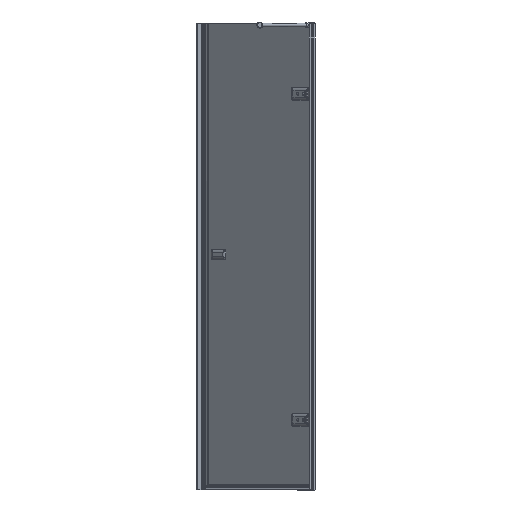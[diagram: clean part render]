
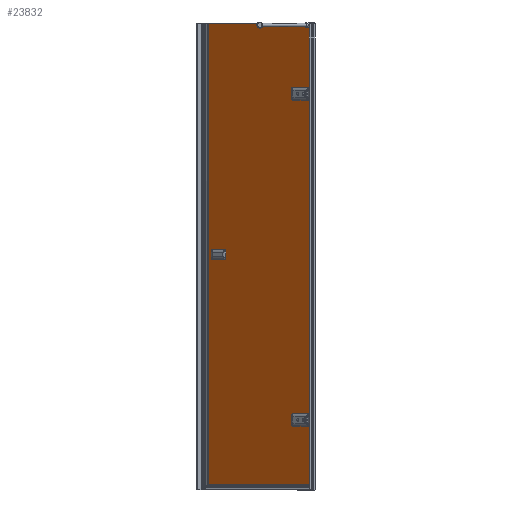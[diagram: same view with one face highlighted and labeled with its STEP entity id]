
A CAD part, left-side view. The second image highlights one B-rep face of the part: STEP entity #23832.
In plain terms, the highlighted planar face has unit normal (-0.707, 0.707, 0).
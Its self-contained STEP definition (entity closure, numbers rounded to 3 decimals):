
#341=FACE_BOUND($,#3484,.T.);
#342=FACE_BOUND($,#3485,.T.);
#343=FACE_BOUND($,#3486,.T.);
#3484=EDGE_LOOP($,(#20067));
#3485=EDGE_LOOP($,(#20068));
#3486=EDGE_LOOP($,(#20069,#20070,#20071,#20072,#20073,#20074,#20075,#20076,
#20077,#20078,#20079,#20080,#20081,#20082,#20083,#20084));
#4151=LINE($,#48981,#6217);
#4686=LINE($,#51399,#6752);
#4976=LINE($,#52678,#7042);
#4991=LINE($,#52735,#7057);
#5045=LINE($,#52944,#7111);
#5051=LINE($,#52963,#7117);
#5513=LINE($,#54102,#7579);
#5540=LINE($,#54189,#7606);
#5554=LINE($,#54226,#7620);
#5555=LINE($,#54230,#7621);
#5556=LINE($,#54233,#7622);
#5557=LINE($,#54237,#7623);
#6217=VECTOR($,#27973,261.);
#6752=VECTOR($,#29442,1362.);
#7042=VECTOR($,#30246,616.92);
#7057=VECTOR($,#30319,30.046);
#7111=VECTOR($,#30501,281.);
#7117=VECTOR($,#30529,30.046);
#7579=VECTOR($,#31541,616.92);
#7606=VECTOR($,#31616,1980.);
#7620=VECTOR($,#31668,30.046);
#7621=VECTOR($,#31671,18.);
#7622=VECTOR($,#31674,30.046);
#7623=VECTOR($,#31677,18.);
#8071=CIRCLE($,#24503,6.5);
#8263=CIRCLE($,#24985,6.5);
#8551=CIRCLE($,#25846,10.);
#8552=CIRCLE($,#25847,10.);
#8553=CIRCLE($,#25848,10.);
#8554=CIRCLE($,#25849,10.);
#9151=VERTEX_POINT($,#47887);
#9343=VERTEX_POINT($,#48978);
#9344=VERTEX_POINT($,#48980);
#9723=VERTEX_POINT($,#50492);
#9882=VERTEX_POINT($,#51397);
#9883=VERTEX_POINT($,#51398);
#10156=VERTEX_POINT($,#52675);
#10157=VERTEX_POINT($,#52677);
#10170=VERTEX_POINT($,#52734);
#10215=VERTEX_POINT($,#52943);
#10217=VERTEX_POINT($,#52962);
#10583=VERTEX_POINT($,#54101);
#10599=VERTEX_POINT($,#54225);
#10600=VERTEX_POINT($,#54227);
#10601=VERTEX_POINT($,#54229);
#10602=VERTEX_POINT($,#54232);
#10603=VERTEX_POINT($,#54234);
#10604=VERTEX_POINT($,#54236);
#11539=EDGE_CURVE($,#9151,#9151,#8071,.T.);
#11836=EDGE_CURVE($,#9344,#9343,#4151,.T.);
#12378=EDGE_CURVE($,#9723,#9723,#8263,.T.);
#12642=EDGE_CURVE($,#9882,#9883,#4686,.T.);
#13074=EDGE_CURVE($,#10156,#10157,#4976,.T.);
#13104=EDGE_CURVE($,#10170,#9882,#4991,.T.);
#13190=EDGE_CURVE($,#10215,#10157,#5045,.T.);
#13197=EDGE_CURVE($,#10217,#10215,#5051,.T.);
#13752=EDGE_CURVE($,#10583,#9344,#5513,.T.);
#13787=EDGE_CURVE($,#10583,#10156,#5540,.T.);
#13804=EDGE_CURVE($,#9883,#10599,#5554,.T.);
#13805=EDGE_CURVE($,#10600,#10599,#8551,.T.);
#13806=EDGE_CURVE($,#10600,#10601,#5555,.T.);
#13807=EDGE_CURVE($,#10217,#10601,#8552,.T.);
#13808=EDGE_CURVE($,#9343,#10602,#5556,.T.);
#13809=EDGE_CURVE($,#10603,#10602,#8553,.T.);
#13810=EDGE_CURVE($,#10603,#10604,#5557,.T.);
#13811=EDGE_CURVE($,#10170,#10604,#8554,.T.);
#20067=ORIENTED_EDGE($,*,*,#11539,.T.);
#20068=ORIENTED_EDGE($,*,*,#12378,.T.);
#20069=ORIENTED_EDGE($,*,*,#12642,.T.);
#20070=ORIENTED_EDGE($,*,*,#13804,.T.);
#20071=ORIENTED_EDGE($,*,*,#13805,.F.);
#20072=ORIENTED_EDGE($,*,*,#13806,.T.);
#20073=ORIENTED_EDGE($,*,*,#13807,.F.);
#20074=ORIENTED_EDGE($,*,*,#13197,.T.);
#20075=ORIENTED_EDGE($,*,*,#13190,.T.);
#20076=ORIENTED_EDGE($,*,*,#13074,.F.);
#20077=ORIENTED_EDGE($,*,*,#13787,.F.);
#20078=ORIENTED_EDGE($,*,*,#13752,.T.);
#20079=ORIENTED_EDGE($,*,*,#11836,.T.);
#20080=ORIENTED_EDGE($,*,*,#13808,.T.);
#20081=ORIENTED_EDGE($,*,*,#13809,.F.);
#20082=ORIENTED_EDGE($,*,*,#13810,.T.);
#20083=ORIENTED_EDGE($,*,*,#13811,.F.);
#20084=ORIENTED_EDGE($,*,*,#13104,.T.);
#21532=PLANE($,#25845);
#23832=ADVANCED_FACE($,(#341,#342,#343),#21532,.T.);
#24503=AXIS2_PLACEMENT_3D($,#47888,#27409,#27410);
#24985=AXIS2_PLACEMENT_3D($,#50493,#28917,#28918);
#25845=AXIS2_PLACEMENT_3D($,#54224,#31666,#31667);
#25846=AXIS2_PLACEMENT_3D($,#54228,#31669,#31670);
#25847=AXIS2_PLACEMENT_3D($,#54231,#31672,#31673);
#25848=AXIS2_PLACEMENT_3D($,#54235,#31675,#31676);
#25849=AXIS2_PLACEMENT_3D($,#54238,#31678,#31679);
#27409=DIRECTION('center_axis',(0.707,-0.707,0.));
#27410=DIRECTION('ref_axis',(-0.707,-0.707,0.));
#27973=DIRECTION($,(0.,0.,1.));
#28917=DIRECTION('center_axis',(0.707,-0.707,0.));
#28918=DIRECTION('ref_axis',(-0.707,-0.707,0.));
#29442=DIRECTION($,(0.,0.,1.));
#30246=DIRECTION($,(-0.707,-0.707,0.));
#30319=DIRECTION($,(-0.707,-0.707,0.));
#30501=DIRECTION($,(0.,0.,1.));
#30529=DIRECTION($,(-0.707,-0.707,0.));
#31541=DIRECTION($,(-0.707,-0.707,0.));
#31616=DIRECTION($,(0.,0.,1.));
#31666=DIRECTION('center_axis',(-0.707,0.707,0.));
#31667=DIRECTION('ref_axis',(-0.707,-0.707,0.));
#31668=DIRECTION($,(0.707,0.707,0.));
#31669=DIRECTION('center_axis',(-0.707,0.707,0.));
#31670=DIRECTION('ref_axis',(0.5,0.5,-0.707));
#31671=DIRECTION($,(0.,0.,1.));
#31672=DIRECTION('center_axis',(-0.707,0.707,0.));
#31673=DIRECTION('ref_axis',(0.5,0.5,0.707));
#31674=DIRECTION($,(0.707,0.707,0.));
#31675=DIRECTION('center_axis',(-0.707,0.707,0.));
#31676=DIRECTION('ref_axis',(0.5,0.5,-0.707));
#31677=DIRECTION($,(0.,0.,1.));
#31678=DIRECTION('center_axis',(-0.707,0.707,0.));
#31679=DIRECTION('ref_axis',(0.5,0.5,0.707));
#47887=CARTESIAN_POINT('',(902.483,-108.912,-114.056));
#47888=CARTESIAN_POINT('Origin',(897.887,-113.508,-114.056));
#48978=CARTESIAN_POINT('',(853.306,-158.089,-133.056));
#48980=CARTESIAN_POINT('',(853.306,-158.089,-394.056));
#48981=CARTESIAN_POINT($,(853.306,-158.089,-414.056));
#50492=CARTESIAN_POINT('',(902.483,-108.912,1285.944));
#50493=CARTESIAN_POINT('Origin',(897.887,-113.508,1285.944));
#51397=CARTESIAN_POINT('',(853.306,-158.089,-95.056));
#51398=CARTESIAN_POINT('',(853.306,-158.089,1266.944));
#51399=CARTESIAN_POINT($,(853.306,-158.089,-104.056));
#52675=CARTESIAN_POINT('',(1289.534,278.139,1585.944));
#52677=CARTESIAN_POINT('',(853.306,-158.089,1585.944));
#52678=CARTESIAN_POINT($,(1292.787,281.392,1585.944));
#52734=CARTESIAN_POINT('',(874.552,-136.843,-95.056));
#52735=CARTESIAN_POINT($,(1072.356,60.961,-95.056));
#52943=CARTESIAN_POINT('',(853.306,-158.089,1304.944));
#52944=CARTESIAN_POINT($,(853.306,-158.089,1585.944));
#52962=CARTESIAN_POINT('',(874.552,-136.843,1304.944));
#52963=CARTESIAN_POINT($,(1072.356,60.961,1304.944));
#54101=CARTESIAN_POINT('',(1289.534,278.139,-394.056));
#54102=CARTESIAN_POINT($,(1292.787,281.392,-394.056));
#54189=CARTESIAN_POINT($,(1289.534,278.139,-394.056));
#54224=CARTESIAN_POINT('Origin',(1292.787,281.392,-394.056));
#54225=CARTESIAN_POINT('',(874.552,-136.843,1266.944));
#54226=CARTESIAN_POINT($,(1087.205,75.81,1266.944));
#54227=CARTESIAN_POINT('',(881.623,-129.772,1276.944));
#54228=CARTESIAN_POINT('Origin',(874.552,-136.843,1276.944));
#54229=CARTESIAN_POINT('',(881.623,-129.772,1294.944));
#54230=CARTESIAN_POINT($,(881.623,-129.772,455.444));
#54231=CARTESIAN_POINT('Origin',(874.552,-136.843,1294.944));
#54232=CARTESIAN_POINT('',(874.552,-136.843,-133.056));
#54233=CARTESIAN_POINT($,(1087.205,75.81,-133.056));
#54234=CARTESIAN_POINT('',(881.623,-129.772,-123.056));
#54235=CARTESIAN_POINT('Origin',(874.552,-136.843,-123.056));
#54236=CARTESIAN_POINT('',(881.623,-129.772,-105.056));
#54237=CARTESIAN_POINT($,(881.623,-129.772,-244.556));
#54238=CARTESIAN_POINT('Origin',(874.552,-136.843,-105.056));
